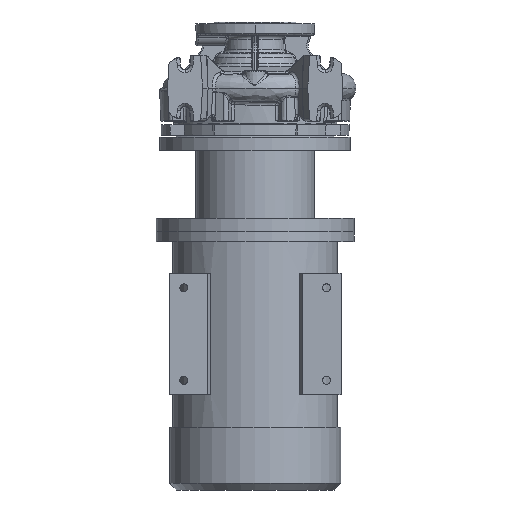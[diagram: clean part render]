
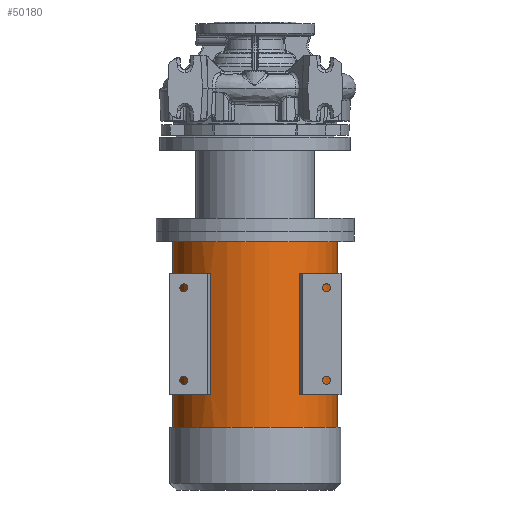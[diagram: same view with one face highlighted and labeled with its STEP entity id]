
A CAD part, front view. The second image highlights one B-rep face of the part: STEP entity #50180.
In plain terms, the highlighted cylindrical face has radius 124.5 mm (diameter 249 mm), a partial arc.
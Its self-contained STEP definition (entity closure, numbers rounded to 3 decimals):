
#2063 = DIRECTION ( 'NONE',  ( 0., 0., -1. ) ) ;
#3251 = DIRECTION ( 'NONE',  ( 0., 0., -1. ) ) ;
#4129 = EDGE_CURVE ( 'NONE', #61354, #63827, #21718, .T. ) ;
#4558 = CARTESIAN_POINT ( 'NONE',  ( 0., 0., -232.3 ) ) ;
#4733 = CIRCLE ( 'NONE', #38161, 124.5 ) ;
#5789 = DIRECTION ( 'NONE',  ( 0., 0., 1. ) ) ;
#6436 = EDGE_LOOP ( 'NONE', ( #16121, #23489, #41933, #23894 ) ) ;
#8558 = CIRCLE ( 'NONE', #24186, 124.5 ) ;
#9020 = CARTESIAN_POINT ( 'NONE',  ( -124.5, 0., -232.3 ) ) ;
#10631 = LINE ( 'NONE', #67003, #15770 ) ;
#10679 = DIRECTION ( 'NONE',  ( 1., 0., 0. ) ) ;
#11938 = LINE ( 'NONE', #28747, #65953 ) ;
#12092 = EDGE_CURVE ( 'NONE', #50957, #63827, #50296, .T. ) ;
#13013 = ORIENTED_EDGE ( 'NONE', *, *, #4129, .F. ) ;
#14132 = EDGE_CURVE ( 'NONE', #67685, #18033, #4733, .T. ) ;
#15543 = CARTESIAN_POINT ( 'NONE',  ( -66.829, -105.044, -280.3 ) ) ;
#15589 = VECTOR ( 'NONE', #5789, 1000. ) ;
#15770 = VECTOR ( 'NONE', #51155, 1000. ) ;
#16020 = DIRECTION ( 'NONE',  ( 0., 0., -1. ) ) ;
#16121 = ORIENTED_EDGE ( 'NONE', *, *, #69948, .F. ) ;
#16123 = VECTOR ( 'NONE', #24397, 1000. ) ;
#16972 = CARTESIAN_POINT ( 'NONE',  ( -66.829, -105.044, -464.3 ) ) ;
#16992 = DIRECTION ( 'NONE',  ( 0., 0., -1. ) ) ;
#18033 = VERTEX_POINT ( 'NONE', #56296 ) ;
#19369 = AXIS2_PLACEMENT_3D ( 'NONE', #35498, #2063, #63726 ) ;
#21529 = VECTOR ( 'NONE', #26167, 1000. ) ;
#21579 = CARTESIAN_POINT ( 'NONE',  ( 66.829, -105.044, -464.3 ) ) ;
#21718 = CIRCLE ( 'NONE', #67977, 124.5 ) ;
#21848 = CARTESIAN_POINT ( 'NONE',  ( 0., 0., -464.3 ) ) ;
#22361 = CARTESIAN_POINT ( 'NONE',  ( -66.829, -105.044, -608.3 ) ) ;
#23089 = ORIENTED_EDGE ( 'NONE', *, *, #12092, .T. ) ;
#23489 = ORIENTED_EDGE ( 'NONE', *, *, #60877, .T. ) ;
#23894 = ORIENTED_EDGE ( 'NONE', *, *, #71169, .F. ) ;
#24186 = AXIS2_PLACEMENT_3D ( 'NONE', #33554, #16992, #55980 ) ;
#24397 = DIRECTION ( 'NONE',  ( 0., 0., 1. ) ) ;
#24549 = FACE_BOUND ( 'NONE', #71084, .T. ) ;
#24684 = DIRECTION ( 'NONE',  ( -1., 0., 0. ) ) ;
#25569 = CARTESIAN_POINT ( 'NONE',  ( 0., 0., -513.3 ) ) ;
#26167 = DIRECTION ( 'NONE',  ( 0., 0., -1. ) ) ;
#26511 = VERTEX_POINT ( 'NONE', #58109 ) ;
#26967 = DIRECTION ( 'NONE',  ( -1., 0., 0. ) ) ;
#27001 = CIRCLE ( 'NONE', #68866, 124.5 ) ;
#28747 = CARTESIAN_POINT ( 'NONE',  ( 124.5, 0., -608.3 ) ) ;
#30087 = ORIENTED_EDGE ( 'NONE', *, *, #43116, .F. ) ;
#31026 = DIRECTION ( 'NONE',  ( 0., 0., 1. ) ) ;
#32477 = VERTEX_POINT ( 'NONE', #9020 ) ;
#32757 = EDGE_CURVE ( 'NONE', #65084, #18033, #10631, .T. ) ;
#33554 = CARTESIAN_POINT ( 'NONE',  ( 0., 0., -280.3 ) ) ;
#34115 = VERTEX_POINT ( 'NONE', #54320 ) ;
#34346 = DIRECTION ( 'NONE',  ( 0., 0., -1. ) ) ;
#35159 = ORIENTED_EDGE ( 'NONE', *, *, #54124, .F. ) ;
#35278 = VECTOR ( 'NONE', #3251, 1000. ) ;
#35498 = CARTESIAN_POINT ( 'NONE',  ( 0., 0., -608.3 ) ) ;
#35886 = CARTESIAN_POINT ( 'NONE',  ( 75.873, -98.709, -464.3 ) ) ;
#37631 = CYLINDRICAL_SURFACE ( 'NONE', #19369, 124.5 ) ;
#38161 = AXIS2_PLACEMENT_3D ( 'NONE', #21848, #16020, #10679 ) ;
#38547 = FACE_BOUND ( 'NONE', #72079, .T. ) ;
#38796 = LINE ( 'NONE', #42191, #16123 ) ;
#41933 = ORIENTED_EDGE ( 'NONE', *, *, #46837, .T. ) ;
#42092 = VERTEX_POINT ( 'NONE', #15543 ) ;
#42191 = CARTESIAN_POINT ( 'NONE',  ( 66.829, -105.044, -608.3 ) ) ;
#42356 = CIRCLE ( 'NONE', #61294, 124.5 ) ;
#42745 = EDGE_CURVE ( 'NONE', #26511, #50957, #66231, .T. ) ;
#42791 = CARTESIAN_POINT ( 'NONE',  ( 75.873, -98.709, -608.3 ) ) ;
#43116 = EDGE_CURVE ( 'NONE', #67685, #42092, #61840, .T. ) ;
#43603 = DIRECTION ( 'NONE',  ( -1., 0., 0. ) ) ;
#44358 = DIRECTION ( 'NONE',  ( 0., 0., -1. ) ) ;
#44556 = ORIENTED_EDGE ( 'NONE', *, *, #42745, .T. ) ;
#46837 = EDGE_CURVE ( 'NONE', #32477, #34115, #51860, .T. ) ;
#47199 = CARTESIAN_POINT ( 'NONE',  ( -75.873, -98.709, -280.3 ) ) ;
#47315 = CARTESIAN_POINT ( 'NONE',  ( 124.5, 0., -513.3 ) ) ;
#47563 = DIRECTION ( 'NONE',  ( -1., 0., 0. ) ) ;
#50180 = ADVANCED_FACE ( 'NONE', ( #54190, #24549, #38547 ), #37631, .T. ) ;
#50296 = LINE ( 'NONE', #42791, #21529 ) ;
#50957 = VERTEX_POINT ( 'NONE', #54826 ) ;
#51155 = DIRECTION ( 'NONE',  ( 0., 0., -1. ) ) ;
#51860 = LINE ( 'NONE', #65170, #35278 ) ;
#52016 = ORIENTED_EDGE ( 'NONE', *, *, #32757, .F. ) ;
#54124 = EDGE_CURVE ( 'NONE', #42092, #65084, #8558, .T. ) ;
#54190 = FACE_OUTER_BOUND ( 'NONE', #6436, .T. ) ;
#54320 = CARTESIAN_POINT ( 'NONE',  ( -124.5, 0., -513.3 ) ) ;
#54826 = CARTESIAN_POINT ( 'NONE',  ( 75.873, -98.709, -280.3 ) ) ;
#55621 = ORIENTED_EDGE ( 'NONE', *, *, #68472, .T. ) ;
#55980 = DIRECTION ( 'NONE',  ( 1., 0., 0. ) ) ;
#56296 = CARTESIAN_POINT ( 'NONE',  ( -75.873, -98.709, -464.3 ) ) ;
#58109 = CARTESIAN_POINT ( 'NONE',  ( 66.829, -105.044, -280.3 ) ) ;
#60610 = CARTESIAN_POINT ( 'NONE',  ( 0., 0., -464.3 ) ) ;
#60877 = EDGE_CURVE ( 'NONE', #70716, #32477, #27001, .T. ) ;
#61294 = AXIS2_PLACEMENT_3D ( 'NONE', #25569, #70923, #47563 ) ;
#61354 = VERTEX_POINT ( 'NONE', #21579 ) ;
#61840 = LINE ( 'NONE', #22361, #15589 ) ;
#62097 = ORIENTED_EDGE ( 'NONE', *, *, #14132, .T. ) ;
#63689 = CARTESIAN_POINT ( 'NONE',  ( 0., 0., -280.3 ) ) ;
#63726 = DIRECTION ( 'NONE',  ( -1., 0., 0. ) ) ;
#63827 = VERTEX_POINT ( 'NONE', #35886 ) ;
#65084 = VERTEX_POINT ( 'NONE', #47199 ) ;
#65170 = CARTESIAN_POINT ( 'NONE',  ( -124.5, 0., -608.3 ) ) ;
#65625 = CARTESIAN_POINT ( 'NONE',  ( 124.5, 0., -232.3 ) ) ;
#65953 = VECTOR ( 'NONE', #34346, 1000. ) ;
#65977 = DIRECTION ( 'NONE',  ( 0., 0., 1. ) ) ;
#66231 = CIRCLE ( 'NONE', #66600, 124.5 ) ;
#66600 = AXIS2_PLACEMENT_3D ( 'NONE', #63689, #31026, #24684 ) ;
#67003 = CARTESIAN_POINT ( 'NONE',  ( -75.873, -98.709, -608.3 ) ) ;
#67685 = VERTEX_POINT ( 'NONE', #16972 ) ;
#67977 = AXIS2_PLACEMENT_3D ( 'NONE', #60610, #65977, #26967 ) ;
#68472 = EDGE_CURVE ( 'NONE', #61354, #26511, #38796, .T. ) ;
#68866 = AXIS2_PLACEMENT_3D ( 'NONE', #4558, #44358, #43603 ) ;
#69948 = EDGE_CURVE ( 'NONE', #70716, #71106, #11938, .T. ) ;
#70716 = VERTEX_POINT ( 'NONE', #65625 ) ;
#70923 = DIRECTION ( 'NONE',  ( 0., 0., -1. ) ) ;
#71084 = EDGE_LOOP ( 'NONE', ( #13013, #55621, #44556, #23089 ) ) ;
#71106 = VERTEX_POINT ( 'NONE', #47315 ) ;
#71169 = EDGE_CURVE ( 'NONE', #71106, #34115, #42356, .T. ) ;
#72079 = EDGE_LOOP ( 'NONE', ( #30087, #62097, #52016, #35159 ) ) ;
